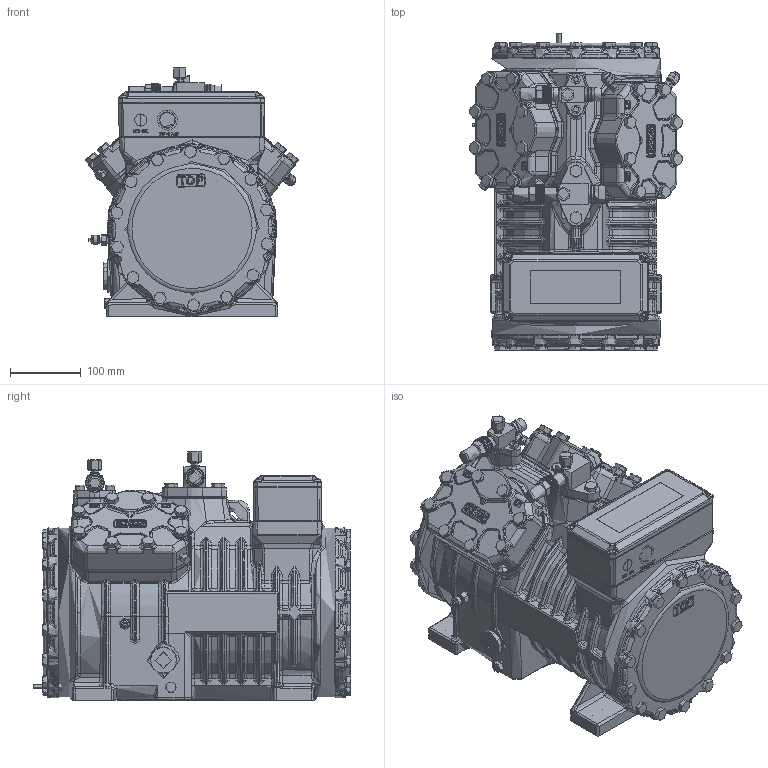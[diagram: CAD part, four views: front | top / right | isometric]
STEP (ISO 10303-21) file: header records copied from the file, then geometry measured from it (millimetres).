
FILE_DESCRIPTION(('TFLEX Exchange Step'),'2;1');
FILE_NAME('4FC-3.3Z_4FC-5.3G.stp', '2024-12-02T17:36:37+03:00',('RUCO3143'),('Unknown organisation'),'TFLEX Exchange 2024.6','T-FLEX CAD','Unknown authorisation');
FILE_SCHEMA( ('AUTOMOTIVE_DESIGN { 1 0 10303 214 1 1 1 1 }') );
Length unit declared in the file: millimetre
Bounding box: 301.19 x 448.18 x 352 mm (x, y, z)
Volume: 23434560.5 mm3; surface area: 1197516.5 mm2
Topology: 9 solids, 17 shells, 6098 faces, 15200 edges, 9176 vertices
Faces by surface type: plane 1845, bspline 1694, cylinder 1117, cone 728, torus 588, sphere 67, extrusion 59
Full cylindrical faces by diameter (mm): 4.5 x1, 6 x1, 7 x2, 8 x1, 8.5 x4, 9 x5, 10 x1, 11 x7, 12 x2, 12.8 x2, 13 x3, 16.2 x1, 19 x2, 19.5 x2, 20 x4, 21 x4, 22.3 x1, 22.4 x1, 24 x2, 25 x1, 26 x3, 31.6 x1, 32 x1, 237 x2, 238.5 x2
Entity records: 282088 total; most frequent: CARTESIAN_POINT 154894, ORIENTED_EDGE 30022, DIRECTION 21926, EDGE_CURVE 15011, VERTEX_POINT 9176, AXIS2_PLACEMENT_3D 8889, EDGE_LOOP 6343, FACE_BOUND 6343
